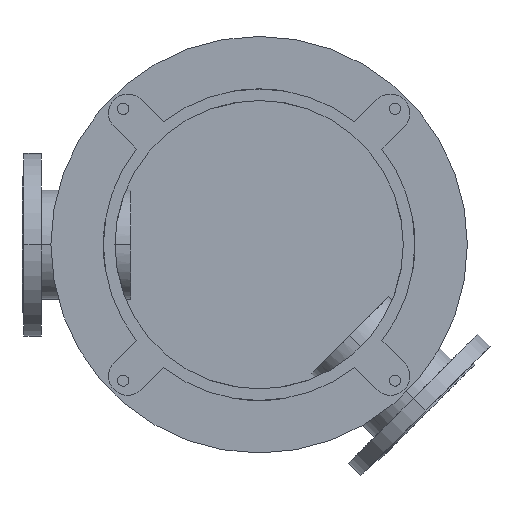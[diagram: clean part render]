
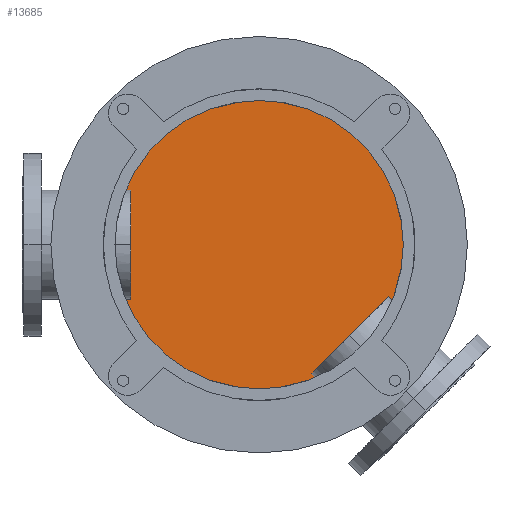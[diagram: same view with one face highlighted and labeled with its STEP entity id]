
A CAD part, front view. The second image highlights one B-rep face of the part: STEP entity #13685.
In plain terms, the highlighted planar face has unit normal (0, -1, 0).
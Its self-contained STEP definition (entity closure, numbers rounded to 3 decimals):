
#3279=CARTESIAN_POINT('',(0.,668.,0.));
#3280=DIRECTION('',(0.,-1.,0.));
#3281=DIRECTION('',(0.,0.,1.));
#3282=AXIS2_PLACEMENT_3D('',#3279,#3280,#3281);
#3406=CARTESIAN_POINT('',(0.,668.,0.));
#3407=DIRECTION('',(0.,-1.,0.));
#3408=DIRECTION('',(0.,0.,-1.));
#3409=AXIS2_PLACEMENT_3D('',#3406,#3407,#3408);
#8621=CARTESIAN_POINT('',(0.,668.,240.));
#8622=CARTESIAN_POINT('',(0.,668.,-240.));
#8623=VERTEX_POINT('',#8621);
#8624=VERTEX_POINT('',#8622);
#13675=CARTESIAN_POINT('',(0.,668.,0.));
#13676=DIRECTION('',(0.,1.,0.));
#13677=DIRECTION('',(0.,0.,-1.));
#13678=AXIS2_PLACEMENT_3D('',#13675,#13676,#13677);
#13679=PLANE('',#13678);
#13680=ORIENTED_EDGE('',*,*,#13659,.F.);
#13682=ORIENTED_EDGE('',*,*,#13681,.F.);
#13683=EDGE_LOOP('',(#13680,#13682));
#13684=FACE_OUTER_BOUND('',#13683,.F.);
#13685=ADVANCED_FACE('',(#13684),#13679,.F.);
#3283=CIRCLE('',#3282,240.);
#3410=CIRCLE('',#3409,240.);
#13659=EDGE_CURVE('',#8623,#8624,#3283,.T.);
#13681=EDGE_CURVE('',#8624,#8623,#3410,.T.);
